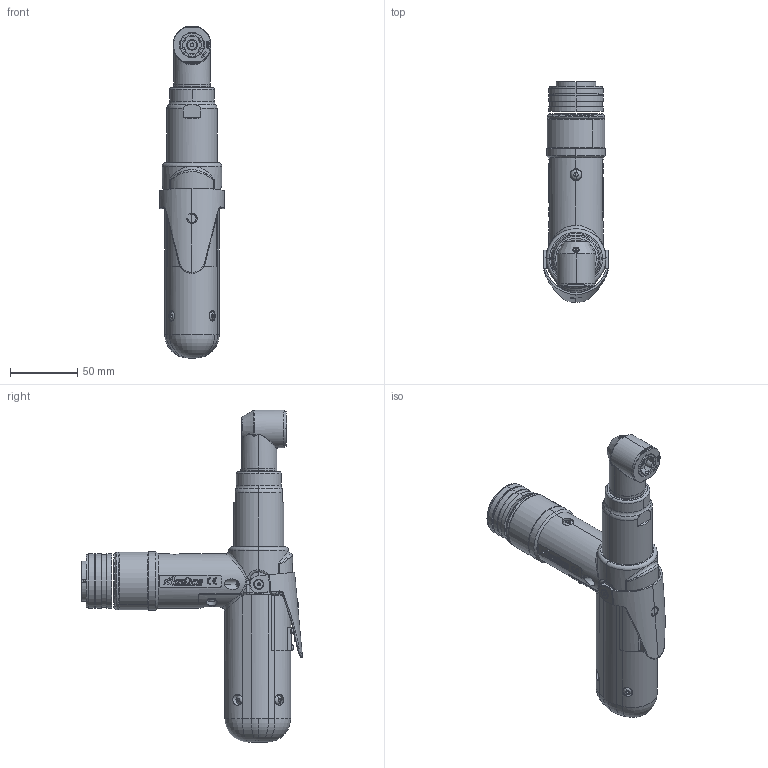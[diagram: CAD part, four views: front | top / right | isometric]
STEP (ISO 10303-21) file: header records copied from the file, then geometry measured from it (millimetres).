
FILE_DESCRIPTION (( 'STEP AP203' ), '1' );
FILE_NAME ('AEN4D22023BMF.STEP', '2012-08-20T23:53:35', ( 'AIMCO' ), ( '' ), 'SwSTEP 2.0', 'SolidWorks 2012', '' );
FILE_SCHEMA (( 'CONFIG_CONTROL_DESIGN' ));
Length unit declared in the file: inch
Products named in the file (1): AEN4D22023BMF
Bounding box: 48.9 x 164.22 x 246.96 mm (x, y, z)
Surface area: 80431.6 mm2 (no closed solid volume)
Topology: 0 solids, 67 shells, 915 faces, 4148 edges, 3190 vertices
Faces by surface type: cylinder 352, plane 320, torus 120, bspline 58, cone 56, sphere 9
Entity records: 50923 total; most frequent: CARTESIAN_POINT 18307, DIRECTION 6649, ORIENTED_EDGE 5968, EDGE_CURVE 4146, VERTEX_POINT 3190, LINE 2489, VECTOR 2489, AXIS2_PLACEMENT_3D 2080
